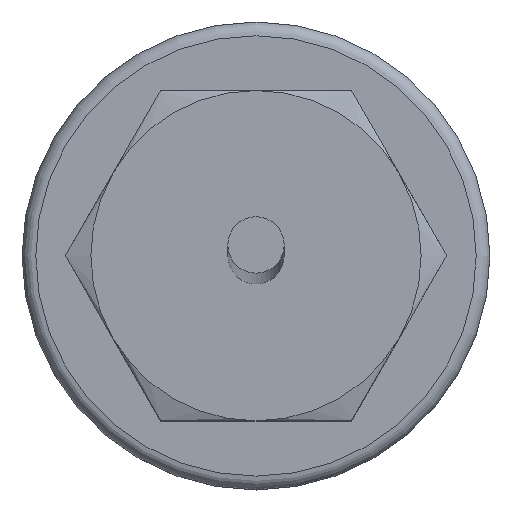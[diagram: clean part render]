
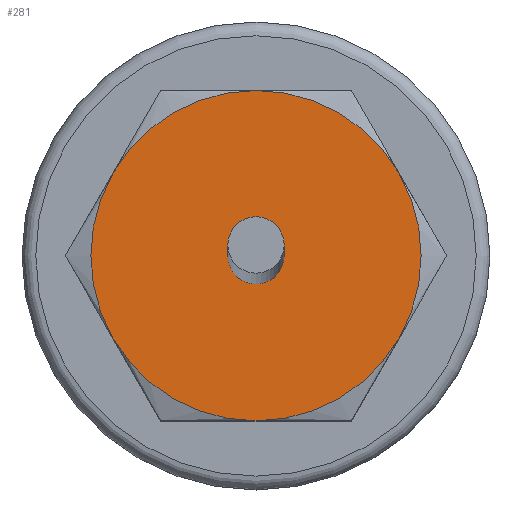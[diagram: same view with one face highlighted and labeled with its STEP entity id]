
A CAD part, top view. The second image highlights one B-rep face of the part: STEP entity #281.
In plain terms, the highlighted planar face has unit normal (0, 0, 1).
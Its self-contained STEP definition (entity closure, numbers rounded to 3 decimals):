
#281=ADVANCED_FACE('',(#470,#471),#338,.F.);
#338=PLANE('',#1496);
#393=CIRCLE('',#1457,12.);
#394=CIRCLE('',#1459,12.);
#395=CIRCLE('',#1461,12.);
#396=CIRCLE('',#1463,12.);
#397=CIRCLE('',#1465,12.);
#398=CIRCLE('',#1467,12.);
#410=CIRCLE('',#1495,2.05);
#470=FACE_BOUND('',#588,.T.);
#471=FACE_BOUND('',#589,.T.);
#588=EDGE_LOOP('',(#858));
#589=EDGE_LOOP('',(#859,#860,#861,#862,#863,#864));
#858=ORIENTED_EDGE('',*,*,#1203,.T.);
#859=ORIENTED_EDGE('',*,*,#1170,.F.);
#860=ORIENTED_EDGE('',*,*,#1168,.F.);
#861=ORIENTED_EDGE('',*,*,#1182,.F.);
#862=ORIENTED_EDGE('',*,*,#1179,.F.);
#863=ORIENTED_EDGE('',*,*,#1176,.F.);
#864=ORIENTED_EDGE('',*,*,#1173,.F.);
#1024=VERTEX_POINT('',#2147);
#1025=VERTEX_POINT('',#2152);
#1027=VERTEX_POINT('',#2161);
#1029=VERTEX_POINT('',#2173);
#1031=VERTEX_POINT('',#2185);
#1033=VERTEX_POINT('',#2197);
#1054=VERTEX_POINT('',#2260);
#1168=EDGE_CURVE('',#1025,#1024,#393,.T.);
#1170=EDGE_CURVE('',#1024,#1027,#394,.T.);
#1173=EDGE_CURVE('',#1027,#1029,#395,.T.);
#1176=EDGE_CURVE('',#1029,#1031,#396,.T.);
#1179=EDGE_CURVE('',#1031,#1033,#397,.T.);
#1182=EDGE_CURVE('',#1033,#1025,#398,.T.);
#1203=EDGE_CURVE('',#1054,#1054,#410,.T.);
#1457=AXIS2_PLACEMENT_3D('',#2153,#1756,#1757);
#1459=AXIS2_PLACEMENT_3D('',#2160,#1760,#1761);
#1461=AXIS2_PLACEMENT_3D('',#2172,#1764,#1765);
#1463=AXIS2_PLACEMENT_3D('',#2184,#1768,#1769);
#1465=AXIS2_PLACEMENT_3D('',#2196,#1772,#1773);
#1467=AXIS2_PLACEMENT_3D('',#2208,#1776,#1777);
#1495=AXIS2_PLACEMENT_3D('',#2259,#1832,#1833);
#1496=AXIS2_PLACEMENT_3D('',#2261,#1834,#1835);
#1756=DIRECTION('',(0.,0.,-1.));
#1757=DIRECTION('',(1.,0.,0.));
#1760=DIRECTION('',(0.,0.,-1.));
#1761=DIRECTION('',(1.,0.,0.));
#1764=DIRECTION('',(0.,0.,-1.));
#1765=DIRECTION('',(1.,0.,0.));
#1768=DIRECTION('',(0.,0.,-1.));
#1769=DIRECTION('',(1.,0.,0.));
#1772=DIRECTION('',(0.,0.,-1.));
#1773=DIRECTION('',(1.,0.,0.));
#1776=DIRECTION('',(0.,0.,-1.));
#1777=DIRECTION('',(1.,0.,0.));
#1832=DIRECTION('',(0.,0.,-1.));
#1833=DIRECTION('',(-1.,0.,0.));
#1834=DIRECTION('',(0.,0.,-1.));
#1835=DIRECTION('',(1.,0.,0.));
#2147=CARTESIAN_POINT('',(10.392,-6.,14.));
#2152=CARTESIAN_POINT('',(10.392,6.,14.));
#2153=CARTESIAN_POINT('',(0.,0.,14.));
#2160=CARTESIAN_POINT('',(0.,0.,14.));
#2161=CARTESIAN_POINT('',(0.,-12.,14.));
#2172=CARTESIAN_POINT('',(0.,0.,14.));
#2173=CARTESIAN_POINT('',(-10.392,-6.,14.));
#2184=CARTESIAN_POINT('',(0.,0.,14.));
#2185=CARTESIAN_POINT('',(-10.392,6.,14.));
#2196=CARTESIAN_POINT('',(0.,0.,14.));
#2197=CARTESIAN_POINT('',(0.,12.,14.));
#2208=CARTESIAN_POINT('',(0.,0.,14.));
#2259=CARTESIAN_POINT('',(0.,0.,14.));
#2260=CARTESIAN_POINT('',(-2.05,0.,14.));
#2261=CARTESIAN_POINT('',(0.,-4.,14.));
